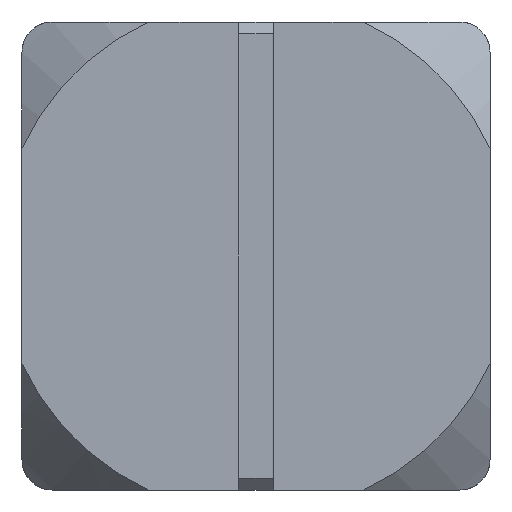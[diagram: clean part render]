
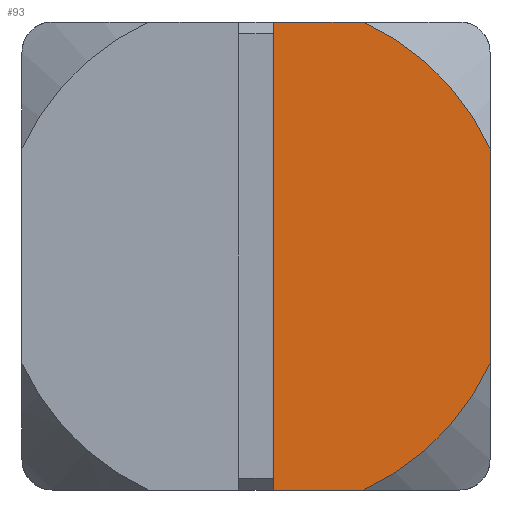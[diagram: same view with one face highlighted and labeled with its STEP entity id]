
A CAD part, left-side view. The second image highlights one B-rep face of the part: STEP entity #93.
In plain terms, the highlighted planar face has unit normal (-1, 0, 0).
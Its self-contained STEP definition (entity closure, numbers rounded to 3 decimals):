
#93 = ADVANCED_FACE( '', ( #156 ), #157, .F. );
#156 = FACE_OUTER_BOUND( '', #231, .T. );
#157 = PLANE( '', #232 );
#231 = EDGE_LOOP( '', ( #387, #388, #389, #390, #391, #392 ) );
#232 = AXIS2_PLACEMENT_3D( '', #393, #394, #395 );
#387 = ORIENTED_EDGE( '', *, *, #528, .T. );
#388 = ORIENTED_EDGE( '', *, *, #555, .T. );
#389 = ORIENTED_EDGE( '', *, *, #556, .F. );
#390 = ORIENTED_EDGE( '', *, *, #554, .F. );
#391 = ORIENTED_EDGE( '', *, *, #557, .F. );
#392 = ORIENTED_EDGE( '', *, *, #558, .F. );
#393 = CARTESIAN_POINT( '', ( -22.5, -0.75, 10. ) );
#394 = DIRECTION( '', ( 1., 0., 0. ) );
#395 = DIRECTION( '', ( 0., 0., -1. ) );
#528 = EDGE_CURVE( '', #628, #626, #629, .T. );
#554 = EDGE_CURVE( '', #673, #666, #675, .T. );
#555 = EDGE_CURVE( '', #626, #676, #677, .T. );
#556 = EDGE_CURVE( '', #666, #676, #678, .T. );
#557 = EDGE_CURVE( '', #679, #673, #680, .T. );
#558 = EDGE_CURVE( '', #628, #679, #681, .T. );
#626 = VERTEX_POINT( '', #851 );
#628 = VERTEX_POINT( '', #854 );
#629 = LINE( '', #855, #856 );
#666 = VERTEX_POINT( '', #916 );
#673 = VERTEX_POINT( '', #939 );
#675 = LINE( '', #946, #947 );
#676 = VERTEX_POINT( '', #948 );
#677 = LINE( '', #949, #950 );
#678 = CIRCLE( '', #951, 11. );
#679 = VERTEX_POINT( '', #952 );
#680 = CIRCLE( '', #953, 11. );
#681 = LINE( '', #954, #955 );
#851 = CARTESIAN_POINT( '', ( -22.5, -0.75, -10. ) );
#854 = CARTESIAN_POINT( '', ( -22.5, -0.75, 10. ) );
#855 = CARTESIAN_POINT( '', ( -22.5, -0.75, 10. ) );
#856 = VECTOR( '', #1070, 1000. );
#916 = CARTESIAN_POINT( '', ( -22.5, -10., -4.583 ) );
#939 = CARTESIAN_POINT( '', ( -22.5, -10., 4.583 ) );
#946 = CARTESIAN_POINT( '', ( -22.5, -10., 10. ) );
#947 = VECTOR( '', #1107, 1000. );
#948 = CARTESIAN_POINT( '', ( -22.5, -4.583, -10. ) );
#949 = CARTESIAN_POINT( '', ( -22.5, -0.75, -10. ) );
#950 = VECTOR( '', #1108, 1000. );
#951 = AXIS2_PLACEMENT_3D( '', #1109, #1110, #1111 );
#952 = CARTESIAN_POINT( '', ( -22.5, -4.583, 10. ) );
#953 = AXIS2_PLACEMENT_3D( '', #1112, #1113, #1114 );
#954 = CARTESIAN_POINT( '', ( -22.5, -0.75, 10. ) );
#955 = VECTOR( '', #1115, 1000. );
#1070 = DIRECTION( '', ( 0., 0., -1. ) );
#1107 = DIRECTION( '', ( 0., 0., -1. ) );
#1108 = DIRECTION( '', ( 0., -1., 0. ) );
#1109 = CARTESIAN_POINT( '', ( -22.5, 0., 0. ) );
#1110 = DIRECTION( '', ( 1., 0., 0. ) );
#1111 = DIRECTION( '', ( 0., 0., -1. ) );
#1112 = CARTESIAN_POINT( '', ( -22.5, 0., 0. ) );
#1113 = DIRECTION( '', ( 1., 0., 0. ) );
#1114 = DIRECTION( '', ( 0., 0., -1. ) );
#1115 = DIRECTION( '', ( 0., -1., 0. ) );
